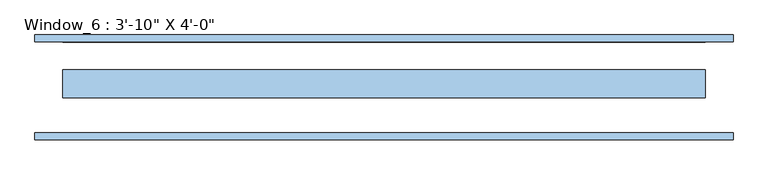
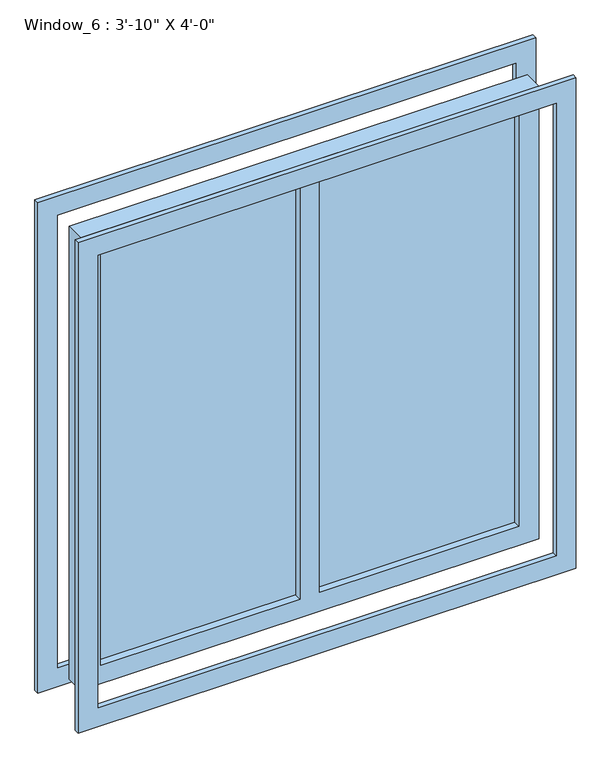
"""IFC4 building model written with IfcOpenShell, lengths in millimetres: window geometry."""

from ifc_helpers import new_model, si_unit, frame, origin, place, context, project, spatial, polyline, outline, extrude, source, transform, mapped, element, save


def window_f6dbb88f(model_context):
    return source(origin(), model_context, "Body", "SweptSolid", [
        extrude(outline(polyline([(546.1, 0.0), (38.1, 0.0), (38.1, 12.7), (546.1, 12.7), (546.1, 0.0)])), frame((0.0, 0.0, 863.6), z_axis=(0.0, 0.0, 1.0), x_axis=(1.0, 0.0, 0.0)), (0.0, 0.0, 1.0), 1117.6),
        extrude(outline(polyline([(-12.7, 0.0), (-520.7, 0.0), (-520.7, 12.7), (-12.7, 12.7), (-12.7, 0.0)])), frame((0.0, 0.0, 863.6), z_axis=(0.0, 0.0, 1.0), x_axis=(1.0, 0.0, 0.0)), (0.0, 0.0, 1.0), 1117.6),
        extrude(outline(polyline([(2032.0, -571.5), (812.8, -571.5), (812.8, 596.9), (2032.0, 596.9), (2032.0, -571.5)]), holes=[polyline([(863.6, -520.7), (1981.2, -520.7), (1981.2, -12.7), (863.6, -12.7), (863.6, -520.7)]), polyline([(1981.2, 38.1), (1981.2, 546.1), (863.6, 546.1), (863.6, 38.1), (1981.2, 38.1)])]), frame((0.0, -19.05, 0.0), z_axis=(0.0, 1.0, 0.0), x_axis=(0.0, 0.0, 1.0)), (0.0, 0.0, 1.0), 50.8),
        extrude(outline(polyline([(2082.8, -622.3), (762.0, -622.3), (762.0, 647.7), (2082.8, 647.7), (2082.8, -622.3)]), holes=[polyline([(2032.0, -571.5), (2032.0, 596.9), (812.8, 596.9), (812.8, -571.5), (2032.0, -571.5)])]), frame((0.0, 82.55, 0.0), z_axis=(0.0, 1.0, 0.0), x_axis=(0.0, 0.0, 1.0)), (0.0, 0.0, 1.0), 12.7),
        extrude(outline(polyline([(2082.8, -622.3), (762.0, -622.3), (762.0, 647.7), (2082.8, 647.7), (2082.8, -622.3)]), holes=[polyline([(812.8, 596.9), (812.8, -571.5), (2032.0, -571.5), (2032.0, 596.9), (812.8, 596.9)])]), frame((0.0, -95.25, 0.0), z_axis=(0.0, 1.0, 0.0), x_axis=(0.0, 0.0, 1.0)), (0.0, 0.0, 1.0), 12.7),
    ])


if __name__ == "__main__":
    model = new_model("IFC4")
    model_context = context("Model", 3, world=origin())
    ifc_project = project(units=[si_unit("LENGTHUNIT", "METRE", prefix="MILLI")], contexts=[model_context])
    site = spatial("IfcSite", under=ifc_project)
    building = spatial("IfcBuilding", under=site)
    placement = place(None, origin())
    window_shape = window_f6dbb88f(model_context)
    element("IfcWindow", 1, ObjectType="Window_6 : 3'-10\" X 4'-0\"", at=placement, inside=building, context=model_context, shape_type="MappedRepresentation", body=[
        mapped(window_shape, transform((0.0, 0.0, 0.0), x_axis=(1.0, 0.0, 0.0), y_axis=(0.0, 1.0, 0.0), z_axis=(0.0, 0.0, 1.0))),
    ])
    save(model, "model.ifc")
